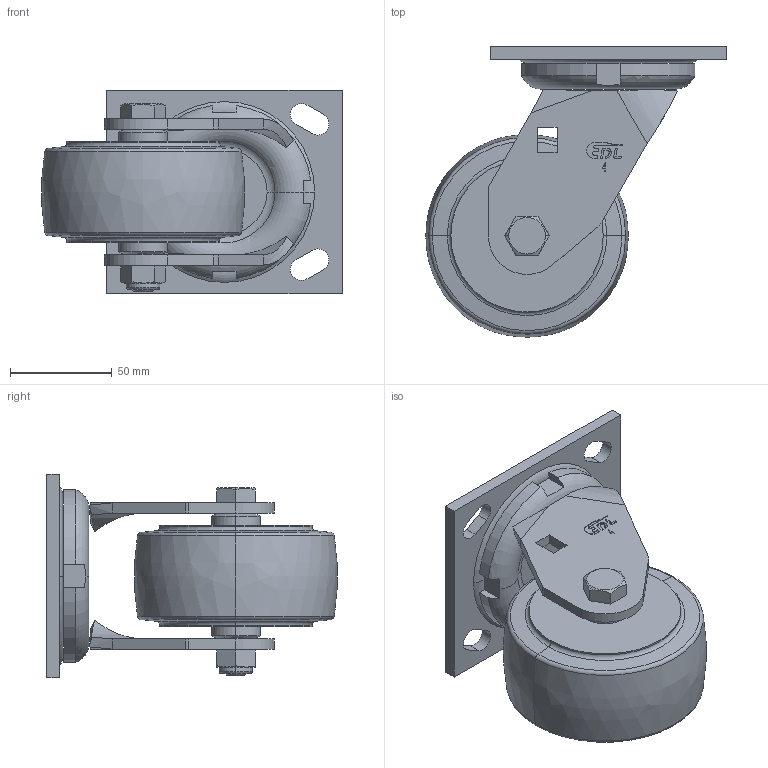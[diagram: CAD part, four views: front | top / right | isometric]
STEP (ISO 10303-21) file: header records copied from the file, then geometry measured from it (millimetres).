
FILE_DESCRIPTION((''),'2;1');
FILE_NAME('73114-734-86_ASM','2020-11-27T',('lenovo'),(''),'PRO/ENGINEER BY PARAMETRIC TECHNOLOGY CORPORATION, 2010280','PRO/ENGINEER BY PARAMETRIC TECHNOLOGY CORPORATION, 2010280','');
FILE_SCHEMA(('CONFIG_CONTROL_DESIGN'));
Length unit declared in the file: millimetre
Products named in the file (8): 7310-201; 7310-211; 7314-353; 7314-311_ASM; 734-86; 7010-33; 7010-34; 73114-734-86_ASM
Assembly tree (7 placements, depth 3):
  73114-734-86_ASM
    7310-201
    7314-311_ASM
      7310-211
      7314-353
    734-86
    7010-33
    7010-34
Bounding box: 147.83 x 142.83 x 100 mm (x, y, z)
Volume: 553877 mm3; surface area: 100057.3 mm2
Topology: 7 solids, 7 shells, 272 faces, 638 edges, 396 vertices
Faces by surface type: plane 123, cylinder 63, torus 54, cone 22, bspline 10
Entity records: 8509 total; most frequent: CARTESIAN_POINT 1992, DIRECTION 1390, ORIENTED_EDGE 1276, EDGE_CURVE 638, AXIS2_PLACEMENT_3D 527, VERTEX_POINT 396, VECTOR 336, LINE 336
